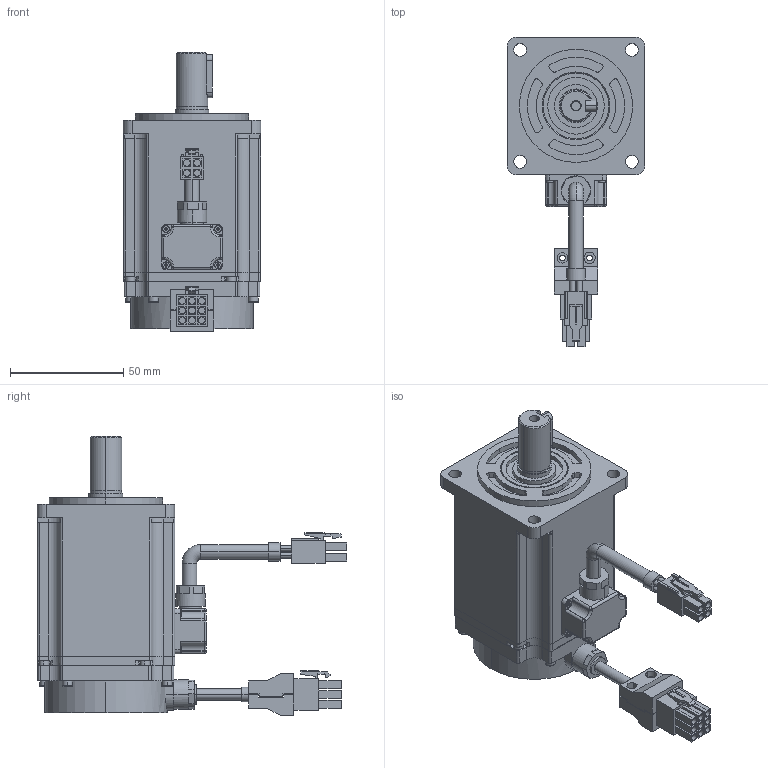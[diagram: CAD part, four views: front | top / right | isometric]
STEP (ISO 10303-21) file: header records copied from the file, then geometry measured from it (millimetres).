
FILE_DESCRIPTION (( 'STEP AP203' ), '1' );
FILE_NAME ('60SS40.STEP', '2023-03-04T09:22:53', ( '' ), ( '' ), 'SwSTEP 2.0', 'SolidWorks 2020', '' );
FILE_SCHEMA (( 'CONFIG_CONTROL_DESIGN' ));
Length unit declared in the file: millimetre
Products named in the file (8): hexagon socket head cap screws gb_GB_FASTENER_SCREWS_HSHCS M2.5X4-N; 60X6ST-C01330 萇儂盄; 葩璃 60X6ST-C01330^60SS40; 錨璃5^60SS40; cross recessed cheese head screws type a gb_GB_CROSS_SCREWS_TYPE135 M2X2.5-N; 60SS40; 60X6ST-C01330 晤鎢盄; 錨璃2^60SS40
Assembly tree (17 placements, depth 2):
  60SS40
    葩璃 60X6ST-C01330^60SS40
    錨璃2^60SS40
    60X6ST-C01330 晤鎢盄
    60X6ST-C01330 萇儂盄
    錨璃5^60SS40
    hexagon socket head cap screws gb_GB_FASTENER_SCREWS_HSHCS M2.5X4-N  x8
    cross recessed cheese head screws type a gb_GB_CROSS_SCREWS_TYPE135 M2X2.5-N  x4
Bounding box: 60.7 x 136.74 x 123.25 mm (x, y, z)
Volume: 320646.2 mm3; surface area: 58699.8 mm2
Topology: 18 solids, 18 shells, 921 faces, 2333 edges, 1496 vertices
Faces by surface type: plane 533, cylinder 298, cone 52, torus 30, sphere 8
Entity records: 21706 total; most frequent: DIRECTION 3662, CARTESIAN_POINT 3657, ORIENTED_EDGE 3442, EDGE_CURVE 1721, AXIS2_PLACEMENT_3D 1266, LINE 1130, VECTOR 1130, VERTEX_POINT 1127
